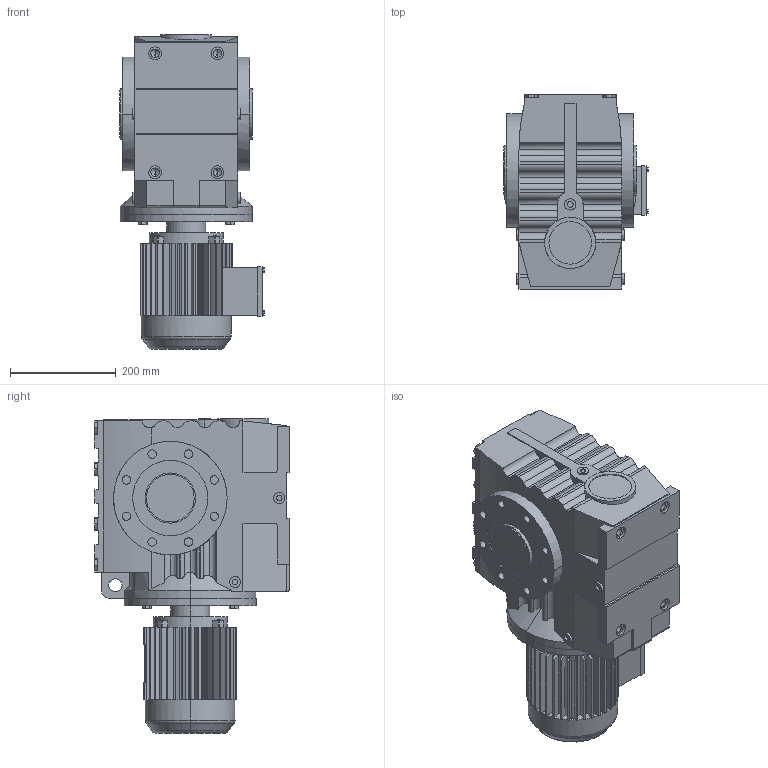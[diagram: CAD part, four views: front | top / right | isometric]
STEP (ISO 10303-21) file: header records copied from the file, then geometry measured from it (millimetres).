
FILE_DESCRIPTION(('Open CASCADE Model'),'2;1');
FILE_NAME('Open CASCADE Shape Model','2021-07-20T11:06:35',('Author'),( 'Open CASCADE'),'Open CASCADE STEP processor 6.3','Open CASCADE 6.3' ,'Unknown');
FILE_SCHEMA(('AUTOMOTIVE_DESIGN_CC2 { 1 2 10303 214 -1 1 5 4 }'));
Length unit declared in the file: millimetre
Products named in the file (4): 1_SA87-Y80M-60-A-W; SA47‵97_87.step; 萇儂_250_Y80M.step; す瑩諾陑粣S_87_60.step
Assembly tree (3 placements, depth 2):
  1_SA87-Y80M-60-A-W
    SA47‵97_87.step
    萇儂_250_Y80M.step
    す瑩諾陑粣S_87_60.step
Bounding box: 274.25 x 368 x 595 mm (x, y, z)
Volume: 28640969.2 mm3; surface area: 1246923.4 mm2
Topology: 3 solids, 3 shells, 821 faces, 2142 edges, 1388 vertices
Faces by surface type: plane 527, cylinder 275, cone 15, torus 4
Entity records: 60612 total; most frequent: CARTESIAN_POINT 20430, DIRECTION 6819, ORIENTED_EDGE 4268, PCURVE 4268, DEFINITIONAL_REPRESENTATION 4268, LINE 3510, VECTOR 3510, EDGE_CURVE 2134
